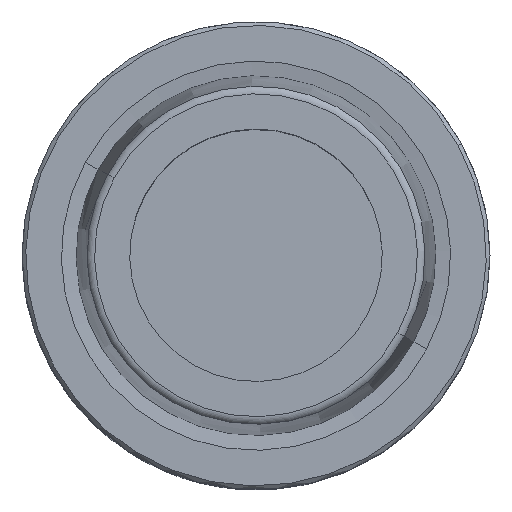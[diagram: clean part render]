
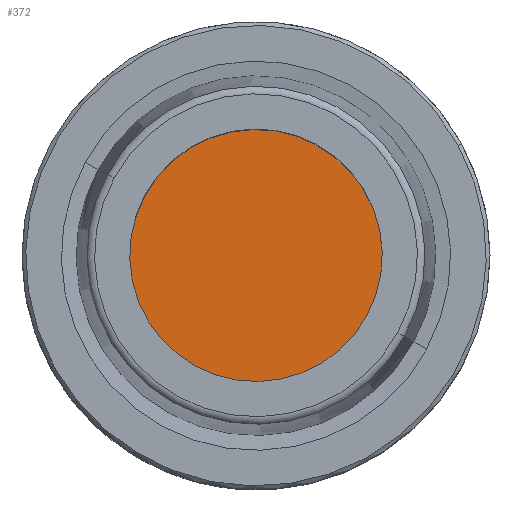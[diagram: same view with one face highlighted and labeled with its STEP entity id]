
A CAD part, top view. The second image highlights one B-rep face of the part: STEP entity #372.
In plain terms, the highlighted planar face has unit normal (0, 0, 1).
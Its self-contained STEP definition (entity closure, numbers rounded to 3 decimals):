
#298=AXIS2_PLACEMENT_3D('Circle Axis2P3D',#296,#297,$) ;
#310=AXIS2_PLACEMENT_3D('Circle Axis2P3D',#308,#309,$) ;
#366=AXIS2_PLACEMENT_3D('Plane Axis2P3D',#363,#364,#365) ;
#286=CARTESIAN_POINT('Vertex',(14.919,-8.15,-10.)) ;
#293=CARTESIAN_POINT('Vertex',(-14.919,8.15,-10.)) ;
#296=CARTESIAN_POINT('Axis2P3D Location',(0.,0.,-10.)) ;
#308=CARTESIAN_POINT('Axis2P3D Location',(0.,0.,-10.)) ;
#363=CARTESIAN_POINT('Axis2P3D Location',(-15.75,0.,-10.)) ;
#297=DIRECTION('Axis2P3D Direction',(0.,0.,-1.)) ;
#309=DIRECTION('Axis2P3D Direction',(0.,0.,-1.)) ;
#364=DIRECTION('Axis2P3D Direction',(0.,0.,-1.)) ;
#365=DIRECTION('Axis2P3D XDirection',(0.,1.,0.)) ;
#369=ORIENTED_EDGE('',*,*,#312,.T.) ;
#370=ORIENTED_EDGE('',*,*,#300,.T.) ;
#372=ADVANCED_FACE('NOCUT',(#371),#367,.F.) ;
#299=CIRCLE('generated circle',#298,17.) ;
#311=CIRCLE('generated circle',#310,17.) ;
#300=EDGE_CURVE('',#287,#294,#299,.F.) ;
#312=EDGE_CURVE('',#294,#287,#311,.F.) ;
#368=EDGE_LOOP('',(#369,#370)) ;
#371=FACE_OUTER_BOUND('',#368,.T.) ;
#367=PLANE('',#366) ;
#287=VERTEX_POINT('',#286) ;
#294=VERTEX_POINT('',#293) ;
